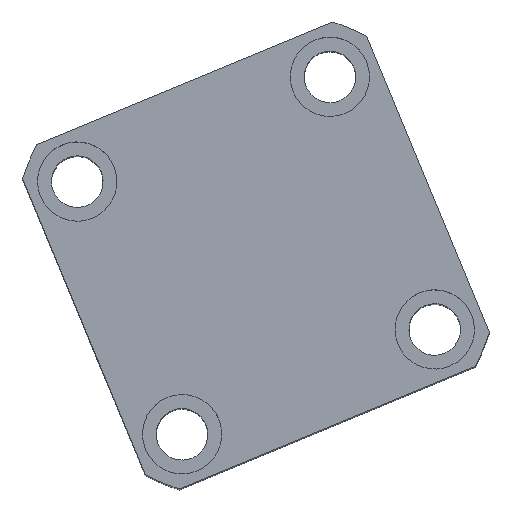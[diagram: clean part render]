
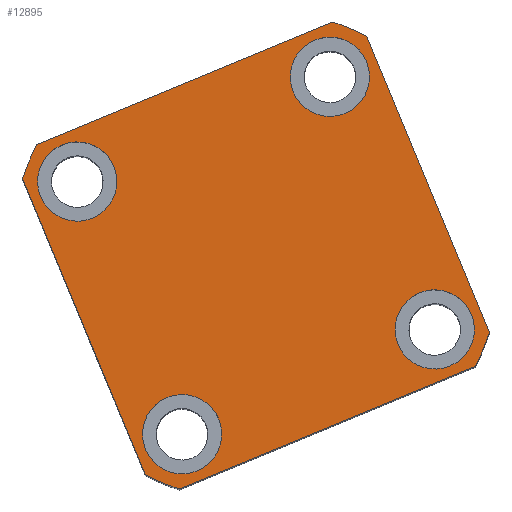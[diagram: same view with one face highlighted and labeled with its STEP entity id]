
A CAD part, top view. The second image highlights one B-rep face of the part: STEP entity #12895.
In plain terms, the highlighted planar face has unit normal (0, 0, 1) as drawn and (0, 0, -1) by its records, which use the part's own axes.
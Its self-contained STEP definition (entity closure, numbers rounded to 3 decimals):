
#42 = ORIENTED_EDGE ( 'NONE', *, *, #17516, .F. ) ;
#77 = CIRCLE ( 'NONE', #12750, 10. ) ;
#249 = EDGE_CURVE ( 'NONE', #845, #7959, #1604, .T. ) ;
#672 = CARTESIAN_POINT ( 'NONE',  ( 40.435, 47., 0. ) ) ;
#834 = DIRECTION ( 'NONE',  ( -1., 0., 0. ) ) ;
#845 = VERTEX_POINT ( 'NONE', #14974 ) ;
#1119 = PLANE ( 'NONE',  #4134 ) ;
#1138 = LINE ( 'NONE', #9664, #11170 ) ;
#1148 = DIRECTION ( 'NONE',  ( -1., 0., 0. ) ) ;
#1425 = VECTOR ( 'NONE', #8343, 1000. ) ;
#1569 = LINE ( 'NONE', #9547, #12020 ) ;
#1604 = CIRCLE ( 'NONE', #5334, 62. ) ;
#1790 = DIRECTION ( 'NONE',  ( 0., 0., 1. ) ) ;
#1812 = EDGE_CURVE ( 'NONE', #9122, #15431, #1879, .T. ) ;
#1879 = LINE ( 'NONE', #15752, #1425 ) ;
#1924 = VERTEX_POINT ( 'NONE', #6075 ) ;
#2047 = FACE_BOUND ( 'NONE', #5133, .T. ) ;
#2180 = AXIS2_PLACEMENT_3D ( 'NONE', #6549, #16109, #7939 ) ;
#2187 = VERTEX_POINT ( 'NONE', #17295 ) ;
#2464 = ORIENTED_EDGE ( 'NONE', *, *, #249, .F. ) ;
#2498 = CARTESIAN_POINT ( 'NONE',  ( 47., -40.435, 0. ) ) ;
#2506 = DIRECTION ( 'NONE',  ( 0., 0., 1. ) ) ;
#2507 = CARTESIAN_POINT ( 'NONE',  ( 34.5, -34.5, 0. ) ) ;
#2579 = AXIS2_PLACEMENT_3D ( 'NONE', #13990, #5816, #15369 ) ;
#2880 = FACE_BOUND ( 'NONE', #2892, .T. ) ;
#2892 = EDGE_LOOP ( 'NONE', ( #16825, #5272 ) ) ;
#2966 = DIRECTION ( 'NONE',  ( 0., 0., 1. ) ) ;
#3087 = VERTEX_POINT ( 'NONE', #5408 ) ;
#3108 = CARTESIAN_POINT ( 'NONE',  ( 24.5, 34.5, 0. ) ) ;
#3775 = CARTESIAN_POINT ( 'NONE',  ( 0., 0., 0. ) ) ;
#3887 = DIRECTION ( 'NONE',  ( -1., 0., 0. ) ) ;
#3928 = VERTEX_POINT ( 'NONE', #14642 ) ;
#4134 = AXIS2_PLACEMENT_3D ( 'NONE', #3775, #2506, #12032 ) ;
#4139 = VERTEX_POINT ( 'NONE', #5207 ) ;
#4433 = ORIENTED_EDGE ( 'NONE', *, *, #10557, .F. ) ;
#4489 = ORIENTED_EDGE ( 'NONE', *, *, #5414, .F. ) ;
#4528 = CARTESIAN_POINT ( 'NONE',  ( 34.5, -34.5, 0. ) ) ;
#4636 = CIRCLE ( 'NONE', #17394, 62. ) ;
#4658 = CARTESIAN_POINT ( 'NONE',  ( -24.5, 34.5, 0. ) ) ;
#4684 = CARTESIAN_POINT ( 'NONE',  ( 24.5, -34.5, 0. ) ) ;
#4730 = CARTESIAN_POINT ( 'NONE',  ( -47., -40.435, 0. ) ) ;
#5133 = EDGE_LOOP ( 'NONE', ( #7015, #17217 ) ) ;
#5166 = CARTESIAN_POINT ( 'NONE',  ( -44.5, 34.5, 0. ) ) ;
#5207 = CARTESIAN_POINT ( 'NONE',  ( 47., 40.435, 0. ) ) ;
#5272 = ORIENTED_EDGE ( 'NONE', *, *, #8542, .F. ) ;
#5334 = AXIS2_PLACEMENT_3D ( 'NONE', #12625, #1790, #12754 ) ;
#5408 = CARTESIAN_POINT ( 'NONE',  ( -44.5, -34.5, 0. ) ) ;
#5414 = EDGE_CURVE ( 'NONE', #7580, #11871, #6285, .T. ) ;
#5671 = EDGE_CURVE ( 'NONE', #13585, #6178, #9928, .T. ) ;
#5816 = DIRECTION ( 'NONE',  ( 0., 0., -1. ) ) ;
#5897 = DIRECTION ( 'NONE',  ( -1., 0., 0. ) ) ;
#6073 = CARTESIAN_POINT ( 'NONE',  ( 0., 0., 0. ) ) ;
#6075 = CARTESIAN_POINT ( 'NONE',  ( 44.5, -34.5, 0. ) ) ;
#6178 = VERTEX_POINT ( 'NONE', #5166 ) ;
#6285 = CIRCLE ( 'NONE', #2180, 62. ) ;
#6426 = DIRECTION ( 'NONE',  ( 0., 0., -1. ) ) ;
#6549 = CARTESIAN_POINT ( 'NONE',  ( 0., 0., 0. ) ) ;
#6622 = EDGE_CURVE ( 'NONE', #12469, #1924, #12892, .T. ) ;
#6818 = EDGE_CURVE ( 'NONE', #7959, #4139, #1569, .T. ) ;
#6839 = DIRECTION ( 'NONE',  ( 0., -1., 0. ) ) ;
#6928 = EDGE_CURVE ( 'NONE', #11871, #845, #1138, .T. ) ;
#7015 = ORIENTED_EDGE ( 'NONE', *, *, #14193, .F. ) ;
#7094 = DIRECTION ( 'NONE',  ( 0., 0., -1. ) ) ;
#7365 = ORIENTED_EDGE ( 'NONE', *, *, #13321, .F. ) ;
#7425 = ORIENTED_EDGE ( 'NONE', *, *, #15789, .F. ) ;
#7457 = VERTEX_POINT ( 'NONE', #3108 ) ;
#7461 = DIRECTION ( 'NONE',  ( 1., 0., 0. ) ) ;
#7580 = VERTEX_POINT ( 'NONE', #4730 ) ;
#7593 = CIRCLE ( 'NONE', #12344, 62. ) ;
#7739 = EDGE_CURVE ( 'NONE', #13840, #7457, #15460, .T. ) ;
#7939 = DIRECTION ( 'NONE',  ( 1., 0., 0. ) ) ;
#7959 = VERTEX_POINT ( 'NONE', #2498 ) ;
#8161 = CARTESIAN_POINT ( 'NONE',  ( -34.5, -34.5, 0. ) ) ;
#8343 = DIRECTION ( 'NONE',  ( -1., 0., 0. ) ) ;
#8425 = CARTESIAN_POINT ( 'NONE',  ( -40.435, 47., 0. ) ) ;
#8493 = EDGE_LOOP ( 'NONE', ( #10903, #7425 ) ) ;
#8542 = EDGE_CURVE ( 'NONE', #1924, #12469, #12430, .T. ) ;
#8556 = CIRCLE ( 'NONE', #2579, 10. ) ;
#8602 = AXIS2_PLACEMENT_3D ( 'NONE', #15266, #7094, #16655 ) ;
#8878 = FACE_OUTER_BOUND ( 'NONE', #12347, .T. ) ;
#8934 = AXIS2_PLACEMENT_3D ( 'NONE', #4528, #14068, #5897 ) ;
#9022 = DIRECTION ( 'NONE',  ( 0., 0., -1. ) ) ;
#9122 = VERTEX_POINT ( 'NONE', #672 ) ;
#9228 = AXIS2_PLACEMENT_3D ( 'NONE', #17523, #9341, #1148 ) ;
#9341 = DIRECTION ( 'NONE',  ( 0., 0., -1. ) ) ;
#9524 = DIRECTION ( 'NONE',  ( -1., 0., 0. ) ) ;
#9547 = CARTESIAN_POINT ( 'NONE',  ( 47., 47., 0. ) ) ;
#9643 = CARTESIAN_POINT ( 'NONE',  ( -40.435, -47., 0. ) ) ;
#9664 = CARTESIAN_POINT ( 'NONE',  ( -47., -47., 0. ) ) ;
#9928 = CIRCLE ( 'NONE', #8602, 10. ) ;
#10086 = AXIS2_PLACEMENT_3D ( 'NONE', #2507, #12033, #3887 ) ;
#10557 = EDGE_CURVE ( 'NONE', #15431, #3928, #4636, .T. ) ;
#10903 = ORIENTED_EDGE ( 'NONE', *, *, #11777, .F. ) ;
#11134 = CARTESIAN_POINT ( 'NONE',  ( 0., 0., 0. ) ) ;
#11170 = VECTOR ( 'NONE', #16474, 1000. ) ;
#11205 = AXIS2_PLACEMENT_3D ( 'NONE', #8161, #17714, #9524 ) ;
#11777 = EDGE_CURVE ( 'NONE', #3087, #2187, #14427, .T. ) ;
#11871 = VERTEX_POINT ( 'NONE', #9643 ) ;
#11931 = ORIENTED_EDGE ( 'NONE', *, *, #1812, .F. ) ;
#11939 = EDGE_CURVE ( 'NONE', #3928, #7580, #13563, .T. ) ;
#12020 = VECTOR ( 'NONE', #13652, 1000. ) ;
#12032 = DIRECTION ( 'NONE',  ( 1., 0., 0. ) ) ;
#12033 = DIRECTION ( 'NONE',  ( 0., 0., -1. ) ) ;
#12123 = CIRCLE ( 'NONE', #9228, 10. ) ;
#12150 = ORIENTED_EDGE ( 'NONE', *, *, #7739, .F. ) ;
#12292 = ORIENTED_EDGE ( 'NONE', *, *, #11939, .F. ) ;
#12344 = AXIS2_PLACEMENT_3D ( 'NONE', #11134, #2966, #12507 ) ;
#12347 = EDGE_LOOP ( 'NONE', ( #7365, #12776, #2464, #16004, #4489, #12292, #4433, #11931 ) ) ;
#12430 = CIRCLE ( 'NONE', #8934, 10. ) ;
#12469 = VERTEX_POINT ( 'NONE', #4684 ) ;
#12477 = FACE_BOUND ( 'NONE', #13560, .T. ) ;
#12507 = DIRECTION ( 'NONE',  ( 1., 0., 0. ) ) ;
#12625 = CARTESIAN_POINT ( 'NONE',  ( 0., 0., 0. ) ) ;
#12750 = AXIS2_PLACEMENT_3D ( 'NONE', #17197, #9022, #834 ) ;
#12754 = DIRECTION ( 'NONE',  ( 1., 0., 0. ) ) ;
#12776 = ORIENTED_EDGE ( 'NONE', *, *, #6818, .F. ) ;
#12892 = CIRCLE ( 'NONE', #10086, 10. ) ;
#12895 = ADVANCED_FACE ( 'NONE', ( #2880, #16564, #2047, #12477, #8878 ), #1119, .F. ) ;
#13321 = EDGE_CURVE ( 'NONE', #4139, #9122, #7593, .T. ) ;
#13560 = EDGE_LOOP ( 'NONE', ( #42, #12150 ) ) ;
#13563 = LINE ( 'NONE', #16509, #17219 ) ;
#13585 = VERTEX_POINT ( 'NONE', #4658 ) ;
#13652 = DIRECTION ( 'NONE',  ( 0., 1., 0. ) ) ;
#13840 = VERTEX_POINT ( 'NONE', #15275 ) ;
#13990 = CARTESIAN_POINT ( 'NONE',  ( -34.5, -34.5, 0. ) ) ;
#14068 = DIRECTION ( 'NONE',  ( 0., 0., -1. ) ) ;
#14193 = EDGE_CURVE ( 'NONE', #6178, #13585, #77, .T. ) ;
#14427 = CIRCLE ( 'NONE', #11205, 10. ) ;
#14611 = CARTESIAN_POINT ( 'NONE',  ( 34.5, 34.5, 0. ) ) ;
#14642 = CARTESIAN_POINT ( 'NONE',  ( -47., 40.435, 0. ) ) ;
#14974 = CARTESIAN_POINT ( 'NONE',  ( 40.435, -47., 0. ) ) ;
#15266 = CARTESIAN_POINT ( 'NONE',  ( -34.5, 34.5, 0. ) ) ;
#15275 = CARTESIAN_POINT ( 'NONE',  ( 44.5, 34.5, 0. ) ) ;
#15369 = DIRECTION ( 'NONE',  ( -1., 0., 0. ) ) ;
#15431 = VERTEX_POINT ( 'NONE', #8425 ) ;
#15460 = CIRCLE ( 'NONE', #17069, 10. ) ;
#15630 = DIRECTION ( 'NONE',  ( 0., 0., 1. ) ) ;
#15752 = CARTESIAN_POINT ( 'NONE',  ( -47., 47., 0. ) ) ;
#15789 = EDGE_CURVE ( 'NONE', #2187, #3087, #8556, .T. ) ;
#15994 = DIRECTION ( 'NONE',  ( -1., 0., 0. ) ) ;
#16004 = ORIENTED_EDGE ( 'NONE', *, *, #6928, .F. ) ;
#16109 = DIRECTION ( 'NONE',  ( 0., 0., 1. ) ) ;
#16474 = DIRECTION ( 'NONE',  ( 1., 0., 0. ) ) ;
#16509 = CARTESIAN_POINT ( 'NONE',  ( -47., 47., 0. ) ) ;
#16564 = FACE_BOUND ( 'NONE', #8493, .T. ) ;
#16655 = DIRECTION ( 'NONE',  ( -1., 0., 0. ) ) ;
#16825 = ORIENTED_EDGE ( 'NONE', *, *, #6622, .F. ) ;
#17069 = AXIS2_PLACEMENT_3D ( 'NONE', #14611, #6426, #15994 ) ;
#17197 = CARTESIAN_POINT ( 'NONE',  ( -34.5, 34.5, 0. ) ) ;
#17217 = ORIENTED_EDGE ( 'NONE', *, *, #5671, .F. ) ;
#17219 = VECTOR ( 'NONE', #6839, 1000. ) ;
#17295 = CARTESIAN_POINT ( 'NONE',  ( -24.5, -34.5, 0. ) ) ;
#17394 = AXIS2_PLACEMENT_3D ( 'NONE', #6073, #15630, #7461 ) ;
#17516 = EDGE_CURVE ( 'NONE', #7457, #13840, #12123, .T. ) ;
#17523 = CARTESIAN_POINT ( 'NONE',  ( 34.5, 34.5, 0. ) ) ;
#17714 = DIRECTION ( 'NONE',  ( 0., 0., -1. ) ) ;
